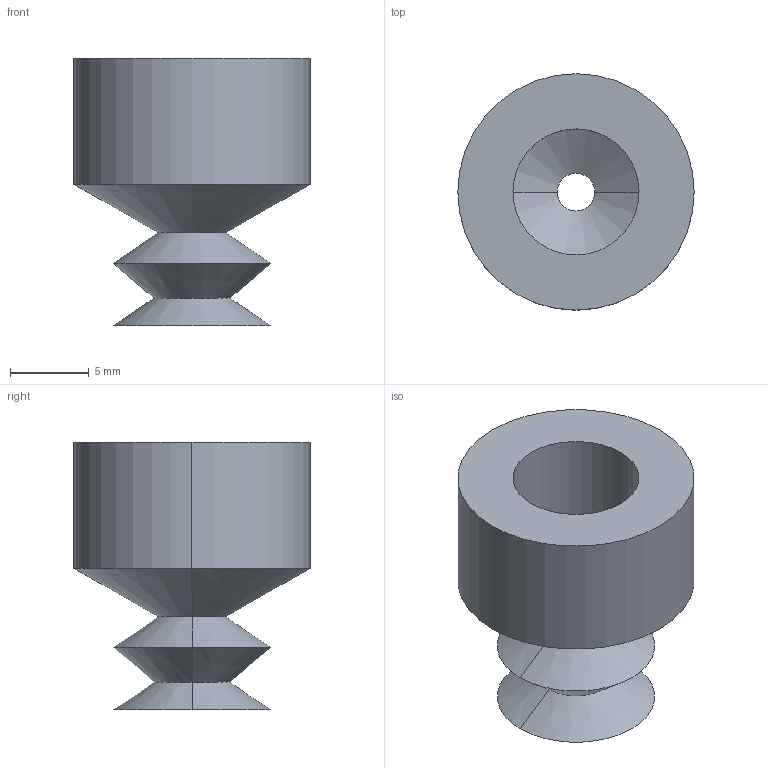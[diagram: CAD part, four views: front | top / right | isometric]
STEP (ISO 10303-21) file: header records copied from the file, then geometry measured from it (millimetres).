
FILE_DESCRIPTION (( 'STEP AP214' ), '1' );
FILE_NAME ('VSH2-M10.STEP', '2019-11-13T09:43:02', ( '微软用户' ), ( '微软中国' ), 'SwSTEP 2.0', 'SolidWorks 2016', '' );
FILE_SCHEMA (( 'AUTOMOTIVE_DESIGN' ));
Length unit declared in the file: millimetre
Products named in the file (1): VSH2-M10
Bounding box: 15 x 15 x 17 mm (x, y, z)
Volume: 1039 mm3; surface area: 1618.3 mm2
Topology: 1 solids, 1 shells, 28 faces, 56 edges, 32 vertices
Faces by surface type: cone 16, cylinder 8, plane 4
Entity records: 762 total; most frequent: DIRECTION 146, CARTESIAN_POINT 117, ORIENTED_EDGE 112, AXIS2_PLACEMENT_3D 61, EDGE_CURVE 56, CIRCLE 32, EDGE_LOOP 32, VERTEX_POINT 32
